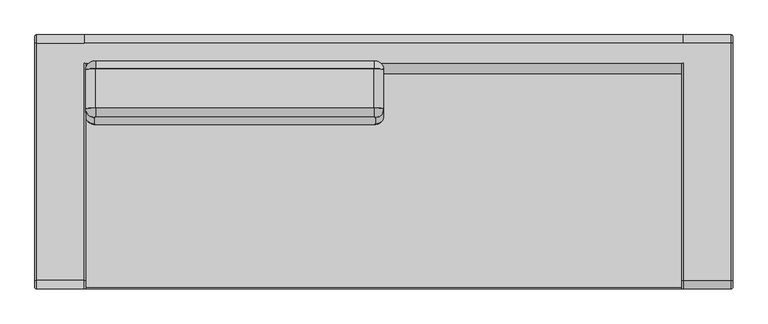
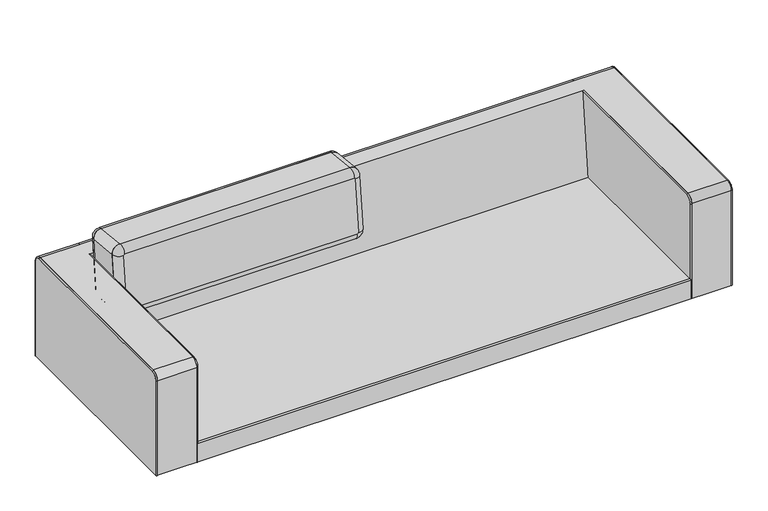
"""IFC4 building model written with IfcOpenShell, lengths in millimetres: furniture geometry, Sofa_Bensen_Neo_NEO300IT : Sofa_Bensen_Neo_NEO300IT."""

import ifcopenshell
import ifcopenshell.guid

model = None  # the IFC model being written
_history = None  # IfcOwnerHistory: only IFC2X3 demands one
_inside = {}  # id of a spatial element -> (the spatial element, [elements in it])
_under = {}  # id of a project, library or spatial element -> (it, [spatial elements below it])
_declared = {}  # id of a project -> (the project, [libraries it declares])
_typed = {}  # id of a type object -> (the type object, [elements of that type])
_made_of = {}  # id of a material, layer set ... -> (it, [elements and type objects made of it])


def new_model(schema):
    """Start an empty IFC model of exactly this schema.

    Asked for "IFC4X3", IfcOpenShell would pick the latest addendum, in which some entities
    have other attributes; the version numbers below select the first issue.
    IFC2X3 requires an IfcOwnerHistory on every rooted entity: one is made here for all.
    """
    global model, _history
    if schema == "IFC4X3":
        model = ifcopenshell.file(schema_version=(4, 3, 0, 0))
    else:
        model = ifcopenshell.file(schema=schema)
    _inside.clear()
    _under.clear()
    _declared.clear()
    _typed.clear()
    _made_of.clear()
    _history = None
    if model.schema == "IFC2X3":
        org = make("IfcOrganization", Name="unknown")
        user = make(
            "IfcPersonAndOrganization",
            ThePerson=make("IfcPerson", FamilyName="unknown"),
            TheOrganization=org,
        )
        app = make(
            "IfcApplication",
            ApplicationDeveloper=org,
            Version="unknown",
            ApplicationFullName="unknown",
            ApplicationIdentifier="unknown",
        )
        _history = make(
            "IfcOwnerHistory",
            OwningUser=user,
            OwningApplication=app,
            ChangeAction="ADDED",
            CreationDate=0,
        )
    return model


def make(cls, **values):
    """One entity of the class cls with the attributes given. An attribute that is None is left unset."""
    return model.create_entity(
        cls, **{name: value for name, value in values.items() if value is not None}
    )


def rooted(cls, **values):
    """An entity with a GlobalId (a new one), such as an element, a storey or a relation."""
    return make(cls, GlobalId=ifcopenshell.guid.new(), OwnerHistory=_history, **values)


def si_unit(unit_type, name, prefix=None):
    """IfcSIUnit, for example si_unit("LENGTHUNIT", "METRE", prefix="MILLI")."""
    return make("IfcSIUnit", UnitType=unit_type, Prefix=prefix, Name=name)


def assignment(units):
    """IfcUnitAssignment: the units of a project."""
    return None if units is None else make("IfcUnitAssignment", Units=units)


def point(xyz):
    """IfcCartesianPoint."""
    return None if xyz is None else make("IfcCartesianPoint", Coordinates=xyz)


def direction(xyz):
    """IfcDirection."""
    return None if xyz is None else make("IfcDirection", DirectionRatios=xyz)


def frame(location, z_axis=None, x_axis=None):
    """IfcAxis2Placement3D, a coordinate frame: its origin and axes. An axis left out is left unset."""
    return make(
        "IfcAxis2Placement3D",
        Location=point(location),
        Axis=direction(z_axis),
        RefDirection=direction(x_axis),
    )


def frame_2d(location, x_axis=None):
    """IfcAxis2Placement2D, a coordinate frame in the plane: its origin and x axis."""
    return make(
        "IfcAxis2Placement2D", Location=point(location), RefDirection=direction(x_axis)
    )


def origin():
    """The frame at (0, 0, 0) with its axes left unset."""
    return frame((0.0, 0.0, 0.0))


def place(relative_to, where):
    """IfcLocalPlacement: puts the frame where relative to a parent placement (None: the world)."""
    return make(
        "IfcLocalPlacement", PlacementRelTo=relative_to, RelativePlacement=where
    )


def context(
    kind, dimensions, precision=None, world=None, true_north=None, identifier=None
):
    """IfcGeometricRepresentationContext, for example the 3D "Model" context."""
    return make(
        "IfcGeometricRepresentationContext",
        ContextIdentifier=identifier,
        ContextType=kind,
        CoordinateSpaceDimension=dimensions,
        Precision=precision,
        WorldCoordinateSystem=world,
        TrueNorth=true_north,
    )


def project(units=None, contexts=None):
    """IfcProject with its units and contexts."""
    return rooted(
        "IfcProject",
        Name="project",
        RepresentationContexts=contexts,
        UnitsInContext=assignment(units),
    )


def spatial(cls, under=None, at=None, **own):
    """A site, building, storey or space (cls), placed at a placement, below another one or the project."""
    s = rooted(cls, ObjectPlacement=at, **own)
    if under is not None:
        _under.setdefault(under.id(), (under, []))[1].append(s)
    return s


def polyline(points):
    """IfcPolyline through the points."""
    return make("IfcPolyline", Points=[point(p) for p in points])


def circle_curve(where, radius):
    """IfcCircle in the frame where."""
    return make("IfcCircle", Position=where, Radius=radius)


def ellipse_curve(where, semi_axis1, semi_axis2):
    """IfcEllipse in the frame where."""
    return make(
        "IfcEllipse", Position=where, SemiAxis1=semi_axis1, SemiAxis2=semi_axis2
    )


def trimmed(basis, trim1, trim2, sense, master):
    """IfcTrimmedCurve: the piece of a basis curve between two trims."""
    return make(
        "IfcTrimmedCurve",
        BasisCurve=basis,
        Trim1=trim1,
        Trim2=trim2,
        SenseAgreement=sense,
        MasterRepresentation=master,
    )


def segment(curve, same_sense, transition):
    """IfcCompositeCurveSegment."""
    return make(
        "IfcCompositeCurveSegment",
        Transition=transition,
        SameSense=same_sense,
        ParentCurve=curve,
    )


def composite_curve(segments, self_intersect=None):
    """IfcCompositeCurve: segments joined end to end."""
    return make("IfcCompositeCurve", Segments=segments, SelfIntersect=self_intersect)


def outline(outer, holes=None, kind="AREA"):
    """IfcArbitraryClosedProfileDef: a profile drawn as a closed curve; with holes, ...WithVoids."""
    if holes is None:
        return make("IfcArbitraryClosedProfileDef", ProfileType=kind, OuterCurve=outer)
    return make(
        "IfcArbitraryProfileDefWithVoids",
        ProfileType=kind,
        OuterCurve=outer,
        InnerCurves=holes,
    )


def extrude(swept, where, along, depth):
    """IfcExtrudedAreaSolid: the profile swept, set in the frame where, extruded along a direction by depth."""
    return make(
        "IfcExtrudedAreaSolid",
        SweptArea=swept,
        Position=where,
        ExtrudedDirection=direction(along),
        Depth=depth,
    )


def shape(context_of_items, identifier, shape_type, items):
    """IfcShapeRepresentation: the items that make up one representation, for example the "Body"."""
    return make(
        "IfcShapeRepresentation",
        ContextOfItems=context_of_items,
        RepresentationIdentifier=identifier,
        RepresentationType=shape_type,
        Items=items,
    )


def source(mapping_origin, context_of_items, identifier, shape_type, items):
    """IfcRepresentationMap: a shape defined once, which mapped items show again and again."""
    return make(
        "IfcRepresentationMap",
        MappingOrigin=mapping_origin,
        MappedRepresentation=shape(context_of_items, identifier, shape_type, items),
    )


def transform(
    local_origin,
    x_axis=None,
    y_axis=None,
    z_axis=None,
    scale=None,
    scale2=None,
    scale3=None,
    uniform=True,
):
    """IfcCartesianTransformationOperator3D, or its non-uniform kind. x_axis, y_axis, z_axis: its Axis1, 2, 3."""
    if uniform:
        return make(
            "IfcCartesianTransformationOperator3D",
            Axis1=direction(x_axis),
            Axis2=direction(y_axis),
            LocalOrigin=point(local_origin),
            Scale=scale,
            Axis3=direction(z_axis),
        )
    return make(
        "IfcCartesianTransformationOperator3DnonUniform",
        Axis1=direction(x_axis),
        Axis2=direction(y_axis),
        LocalOrigin=point(local_origin),
        Scale=scale,
        Axis3=direction(z_axis),
        Scale2=scale2,
        Scale3=scale3,
    )


def mapped(mapping_source, mapping_target):
    """IfcMappedItem: shows the shape of a source again, moved by a transform."""
    return make(
        "IfcMappedItem", MappingSource=mapping_source, MappingTarget=mapping_target
    )


def made_of(thing, what):
    """Note that an element or type object is made of a material, layer set ...; save() writes the relation."""
    if what is not None:
        _made_of.setdefault(what.id(), (what, []))[1].append(thing)
    return thing


def element(
    cls,
    number,
    at=None,
    inside=None,
    cuts=None,
    type_object=None,
    material=None,
    context=None,
    identifier="Body",
    shape_type=None,
    held_by="IfcProductDefinitionShape",
    body=None,
    shapes=None,
    **own,
):
    """One element of the class cls, such as IfcWall. Its Tag is "e" and its number.

    at: its placement. inside: the storey or other place that contains it. cuts: it is an
    opening in that element (IfcRelVoidsElement). A single representation is given by context,
    identifier, shape_type and body (its items); several are given by shapes. held_by: the class
    of the entity that holds the representations. save() writes the other relations.
    """
    e = rooted(cls, Tag="e%d" % number, ObjectPlacement=at, **own)
    if body is not None:
        shapes = [shape(context, identifier, shape_type, body)]
    if shapes is not None:
        e.Representation = make(held_by, Representations=shapes)
    if inside is not None:
        _inside.setdefault(inside.id(), (inside, []))[1].append(e)
    if cuts is not None:
        rooted(
            "IfcRelVoidsElement", RelatingBuildingElement=cuts, RelatedOpeningElement=e
        )
    if type_object is not None:
        _typed.setdefault(type_object.id(), (type_object, []))[1].append(e)
    return made_of(e, material)


def aggregate(whole, parts):
    """IfcRelAggregates: a whole, such as a stair, and the parts it consists of."""
    return rooted("IfcRelAggregates", RelatingObject=whole, RelatedObjects=parts)


def save(model, path):
    """Write the relations noted so far, then the file.

    IfcRelAggregates (storeys below a building ...), IfcRelContainedInSpatialStructure (elements
    in a storey), IfcRelDefinesByType, IfcRelAssociatesMaterial and IfcRelDeclares: one each for
    every whole, place, type object, material and project.
    """
    for whole, parts in _under.values():
        aggregate(whole, parts)
    for where, things in _inside.values():
        rooted(
            "IfcRelContainedInSpatialStructure",
            RelatedElements=things,
            RelatingStructure=where,
        )
    for kind, things in _typed.values():
        rooted("IfcRelDefinesByType", RelatedObjects=things, RelatingType=kind)
    for what, things in _made_of.values():
        rooted("IfcRelAssociatesMaterial", RelatedObjects=things, RelatingMaterial=what)
    for by, libraries in _declared.values():
        rooted("IfcRelDeclares", RelatingContext=by, RelatedDefinitions=libraries)
    model.write(path)


def plane_surface(at):
    """IfcPlane: the flat surface through the origin of the frame at, square to its z axis."""
    return make("IfcPlane", Position=at)


def cylinder_surface(at, radius):
    """IfcCylindricalSurface: all points at the distance radius from the z axis of the frame at."""
    return make("IfcCylindricalSurface", Position=at, Radius=radius)


def revolved_surface(curve, axis_point, axis_direction):
    """IfcSurfaceOfRevolution: the curve turned about the line through axis_point along axis_direction."""
    return make(
        "IfcSurfaceOfRevolution",
        SweptCurve=make("IfcArbitraryOpenProfileDef", ProfileType="CURVE", Curve=curve),
        AxisPosition=make("IfcAxis1Placement", Location=point(axis_point), Axis=direction(axis_direction)),
    )


def advanced_brep(points, edges, surfaces, faces):
    """IfcAdvancedBrep: a solid bounded by faces that lie on surfaces and meet in shared edges.

    An edge is (start, end): straight between two places in points (the first is 0);
    or (start, end, curve); or (start, end, curve, False) where it runs against its curve.
    A face is (place in surfaces, loops), or (place, loops, False) where it looks against
    its surface's normal. A loop lists edges by number (the first is 1), with a minus sign
    where the edge is run from its end to its start. The first loop is the outer one.
    """
    corners = [point(p) for p in points]
    vertices = [make("IfcVertexPoint", VertexGeometry=c) for c in corners]
    made = []
    for start, end, *more in edges:
        made.append(
            make(
                "IfcEdgeCurve",
                EdgeStart=vertices[start],
                EdgeEnd=vertices[end],
                EdgeGeometry=more[0] if more else make("IfcPolyline", Points=[corners[start], corners[end]]),
                SameSense=more[1] if len(more) > 1 else True,
            )
        )
    hull = []
    for where, loops, *sense in faces:
        bounds = []
        for j, loop in enumerate(loops):
            ring = [make("IfcOrientedEdge", EdgeElement=made[abs(k) - 1], Orientation=k > 0) for k in loop]
            bounds.append(
                make(
                    "IfcFaceOuterBound" if j == 0 else "IfcFaceBound",
                    Bound=make("IfcEdgeLoop", EdgeList=ring),
                    Orientation=True,
                )
            )
        hull.append(make("IfcAdvancedFace", Bounds=bounds, FaceSurface=surfaces[where], SameSense=sense[0] if sense else True))
    return make("IfcAdvancedBrep", Outer=make("IfcClosedShell", CfsFaces=hull))


def furniture_b4d80ae5(model_context):
    return source(origin(), model_context, "Body", "SolidModel", [
        advanced_brep(
        [(-1020.0000001, 330.2036921, 743.2087665), (-1055.0000001, 326.5451959, 708.4005002), (-1055.0000001, 302.5036494, 479.6604642), (-1020.0000001, 298.8451531, 444.8521979), (-35.0000001, 298.8451531, 444.8521979), (-1e-07, 302.5036494, 479.6604642), (-1e-07, 326.5451959, 708.4005002), (-35.0000001, 330.2036921, 743.2087665), (-1025.0000001, 356.3808528, 705.2646463), (-1020.0000001, 356.9034951, 710.2372557), (-35.0000001, 356.9034951, 710.2372557), (-30.0000001, 356.3808528, 705.2646463), (-30.0000001, 332.3393062, 476.5246103), (-35.0000001, 331.8166639, 471.5520008), (-1020.0000001, 331.8166639, 471.5520008), (-1025.0000001, 332.3393062, 476.5246103)],
        [
            (0, 1, circle_curve(frame((-1020.0000001, 326.5451959, 708.4005002), z_axis=(0.0, -0.9945218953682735, 0.10452846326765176), x_axis=(-1.0, 0.0, 0.0)), 35.0)),
            (1, 2),
            (2, 3, circle_curve(frame((-1020.0000001, 302.5036494, 479.6604642), z_axis=(0.0, -0.9945218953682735, 0.10452846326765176), x_axis=(0.0, -0.10452846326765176, -0.9945218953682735)), 35.0)),
            (3, 4),
            (4, 5, circle_curve(frame((-35.0000001, 302.5036494, 479.6604642), z_axis=(0.0, -0.9945218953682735, 0.10452846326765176), x_axis=(1.0, 0.0, 0.0)), 35.0)),
            (5, 6),
            (6, 7, circle_curve(frame((-35.0000001, 326.5451959, 708.4005002), z_axis=(0.0, -0.9945218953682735, 0.10452846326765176), x_axis=(0.0, 0.10452846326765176, 0.9945218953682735)), 35.0)),
            (7, 0),
            (8, 9, circle_curve(frame((-1020.0000001, 356.3808528, 705.2646463), z_axis=(0.0, 0.9945218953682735, -0.10452846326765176), x_axis=(-1.0, 0.0, 0.0)), 5.0)),
            (9, 10),
            (10, 11, circle_curve(frame((-35.0000001, 356.3808528, 705.2646463), z_axis=(0.0, 0.9945218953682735, -0.10452846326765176), x_axis=(0.0, 0.10452846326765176, 0.9945218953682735)), 5.0)),
            (11, 12),
            (12, 13, circle_curve(frame((-35.0000001, 332.3393062, 476.5246103), z_axis=(0.0, 0.9945218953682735, -0.10452846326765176), x_axis=(1.0, 0.0, 0.0)), 5.0)),
            (13, 14),
            (14, 15, circle_curve(frame((-1020.0000001, 332.3393062, 476.5246103), z_axis=(0.0, 0.9945218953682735, -0.10452846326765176), x_axis=(0.0, -0.10452846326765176, -0.9945218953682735)), 5.0)),
            (15, 8),
            (8, 1, circle_curve(frame((-1025.0000001, 326.5451959, 708.4005002), z_axis=(0.0, 0.10452846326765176, 0.9945218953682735), x_axis=(-1.0, 0.0, 0.0)), 30.0)),
            (0, 9, circle_curve(frame((-1020.0000001, 327.0678382, 713.3731096), z_axis=(-1.0, 0.0, 0.0), x_axis=(0.0, 0.10452846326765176, 0.9945218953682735)), 30.0)),
            (7, 10, circle_curve(frame((-35.0000001, 327.0678382, 713.3731096), z_axis=(-1.0, 0.0, 0.0), x_axis=(0.0, 0.10452846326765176, 0.9945218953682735)), 30.0)),
            (6, 11, circle_curve(frame((-30.0000001, 326.5451959, 708.4005002), z_axis=(0.0, 0.10452846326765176, 0.9945218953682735), x_axis=(1.0, 0.0, 0.0)), 30.0)),
            (5, 12, circle_curve(frame((-30.0000001, 302.5036494, 479.6604642), z_axis=(0.0, 0.10452846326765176, 0.9945218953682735), x_axis=(1.0, 0.0, 0.0)), 30.0)),
            (4, 13, circle_curve(frame((-35.0000001, 301.981007, 474.6878547), z_axis=(1.0, 0.0, 0.0), x_axis=(0.0, -0.10452846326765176, -0.9945218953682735)), 30.0)),
            (3, 14, circle_curve(frame((-1020.0000001, 301.981007, 474.6878547), z_axis=(1.0, 0.0, 0.0), x_axis=(0.0, -0.10452846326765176, -0.9945218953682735)), 30.0)),
            (2, 15, circle_curve(frame((-1025.0000001, 302.5036494, 479.6604642), z_axis=(0.0, -0.10452846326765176, -0.9945218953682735), x_axis=(-1.0, 0.0, 0.0)), 30.0)),
        ],
        [
            plane_surface(frame((-1020.0000001, 303.0262917, 484.6330737), z_axis=(0.0, -0.9945218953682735, 0.10452846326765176), x_axis=(-1.0, 0.0, 0.0))),
            plane_surface(frame((-1020.0000001, 332.8619485, 481.4972198), z_axis=(0.0, 0.9945218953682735, -0.10452846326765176), x_axis=(1.0, 0.0, 0.0))),
            revolved_surface(trimmed(ellipse_curve(frame((-1025.0000001, 326.5451959, 708.4005002), z_axis=(0.0, -0.10452846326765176, -0.9945218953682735), x_axis=(-1.0, 0.0, 0.0)), 30.0, 30.0), [point((-1055.0000001, 326.5451959, 708.4005002))], [point((-1025.0000001, 356.3808528, 705.2646463))], True, "CARTESIAN"), (-1020.0000001, 326.5451959, 708.4005002), (0.0, 0.9945218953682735, -0.10452846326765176)),
            cylinder_surface(frame((-1020.0000001, 327.0678382, 713.3731096), z_axis=(-1.0, 0.0, 0.0), x_axis=(0.0, 0.10452846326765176, 0.9945218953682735)), 30.0),
            revolved_surface(trimmed(ellipse_curve(frame((-35.0000001, 327.0678382, 713.3731096), z_axis=(-1.0, 0.0, 0.0), x_axis=(0.0, 0.10452846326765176, 0.9945218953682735)), 30.0, 30.0), [point((-35.0000001, 330.2036921, 743.2087665))], [point((-35.0000001, 356.9034951, 710.2372557))], True, "CARTESIAN"), (-35.0000001, 326.5451959, 708.4005002), (0.0, 0.9945218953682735, -0.10452846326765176)),
            cylinder_surface(frame((-30.0000001, 326.5451959, 708.4005002), z_axis=(0.0, 0.10452846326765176, 0.9945218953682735), x_axis=(1.0, 0.0, 0.0)), 30.0),
            revolved_surface(trimmed(ellipse_curve(frame((-30.0000001, 302.5036494, 479.6604642), z_axis=(0.0, 0.10452846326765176, 0.9945218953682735), x_axis=(1.0, 0.0, 0.0)), 30.0, 30.0), [point((-1e-07, 302.5036494, 479.6604642))], [point((-30.0000001, 332.3393062, 476.5246103))], True, "CARTESIAN"), (-35.0000001, 302.5036494, 479.6604642), (0.0, 0.9945218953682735, -0.10452846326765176)),
            cylinder_surface(frame((-35.0000001, 301.981007, 474.6878547), z_axis=(1.0, 0.0, 0.0), x_axis=(0.0, -0.10452846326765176, -0.9945218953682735)), 30.0),
            revolved_surface(trimmed(ellipse_curve(frame((-1020.0000001, 301.981007, 474.6878547), z_axis=(1.0, 0.0, 0.0), x_axis=(0.0, -0.10452846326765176, -0.9945218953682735)), 30.0, 30.0), [point((-1020.0000001, 298.8451531, 444.8521979))], [point((-1020.0000001, 331.8166639, 471.5520008))], True, "CARTESIAN"), (-1020.0000001, 302.5036494, 479.6604642), (0.0, 0.9945218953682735, -0.10452846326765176)),
            cylinder_surface(frame((-1025.0000001, 302.5036494, 479.6604642), z_axis=(0.0, -0.10452846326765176, -0.9945218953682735), x_axis=(-1.0, 0.0, 0.0)), 30.0),
        ],
        [
            (0, [[1, 2, 3, 4, 5, 6, 7, 8]]),
            (1, [[9, 10, 11, 12, 13, 14, 15, 16]]),
            (2, [[17, -1, 18, -9]]),
            (3, [[-18, -8, 19, -10]]),
            (4, [[-19, -7, 20, -11]]),
            (5, [[-20, -6, 21, -12]]),
            (6, [[-21, -5, 22, -13]]),
            (7, [[-22, -4, 23, -14]]),
            (8, [[-23, -3, 24, -15]]),
            (9, [[-17, -16, -24, -2]]),
        ],
    ),
        advanced_brep(
        [(-1020.0000001, 190.9706268, 757.8427514), (-1055.0000001, 187.3121306, 723.034485), (-1025.0000001, 157.4764737, 726.1703389), (-1020.0000001, 157.999116, 731.1429484), (-35.0000001, 157.999116, 731.1429484), (-35.0000001, 190.9706268, 757.8427514), (-30.0000001, 157.4764737, 726.1703389), (-1e-07, 187.3121306, 723.034485), (-30.0000001, 133.4349271, 497.430303), (-1e-07, 163.270584, 494.2944491), (-35.0000001, 132.9122848, 492.4576935), (-35.0000001, 159.6120878, 459.4861827), (-1020.0000001, 132.9122848, 492.4576935), (-1020.0000001, 159.6120878, 459.4861827), (-1025.0000001, 133.4349271, 497.430303), (-1055.0000001, 163.270584, 494.2944491)],
        [
            (0, 1, circle_curve(frame((-1020.0000001, 187.3121306, 723.034485), z_axis=(0.0, -0.9945218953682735, 0.10452846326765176), x_axis=(-1.0, 0.0, 0.0)), 35.0)),
            (1, 2, circle_curve(frame((-1025.0000001, 187.3121306, 723.034485), z_axis=(0.0, 0.10452846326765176, 0.9945218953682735), x_axis=(-1.0, 0.0, 0.0)), 30.0)),
            (2, 3, circle_curve(frame((-1020.0000001, 157.4764737, 726.1703389), z_axis=(0.0, 0.9945218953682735, -0.10452846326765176), x_axis=(-1.0, 0.0, 0.0)), 5.0)),
            (3, 0, circle_curve(frame((-1020.0000001, 187.8347729, 728.0070945), z_axis=(-1.0, 0.0, 0.0), x_axis=(0.0, 0.10452846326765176, 0.9945218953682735)), 30.0)),
            (3, 4),
            (4, 5, circle_curve(frame((-35.0000001, 187.8347729, 728.0070945), z_axis=(-1.0, 0.0, 0.0), x_axis=(0.0, 0.10452846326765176, 0.9945218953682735)), 30.0)),
            (5, 0),
            (4, 6, circle_curve(frame((-35.0000001, 157.4764737, 726.1703389), z_axis=(0.0, 0.9945218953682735, -0.10452846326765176), x_axis=(0.0, 0.10452846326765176, 0.9945218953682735)), 5.0)),
            (6, 7, circle_curve(frame((-30.0000001, 187.3121306, 723.034485), z_axis=(0.0, 0.10452846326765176, 0.9945218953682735), x_axis=(1.0, 0.0, 0.0)), 30.0)),
            (7, 5, circle_curve(frame((-35.0000001, 187.3121306, 723.034485), z_axis=(0.0, -0.9945218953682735, 0.10452846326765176), x_axis=(0.0, 0.10452846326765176, 0.9945218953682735)), 35.0)),
            (6, 8),
            (8, 9, circle_curve(frame((-30.0000001, 163.270584, 494.2944491), z_axis=(0.0, 0.10452846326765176, 0.9945218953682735), x_axis=(1.0, 0.0, 0.0)), 30.0)),
            (9, 7),
            (8, 10, circle_curve(frame((-35.0000001, 133.4349271, 497.430303), z_axis=(0.0, 0.9945218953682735, -0.10452846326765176), x_axis=(1.0, 0.0, 0.0)), 5.0)),
            (10, 11, circle_curve(frame((-35.0000001, 162.7479417, 489.3218396), z_axis=(1.0, 0.0, 0.0), x_axis=(0.0, -0.10452846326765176, -0.9945218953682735)), 30.0)),
            (11, 9, circle_curve(frame((-35.0000001, 163.270584, 494.2944491), z_axis=(0.0, -0.9945218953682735, 0.10452846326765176), x_axis=(1.0, 0.0, 0.0)), 35.0)),
            (10, 12),
            (12, 13, circle_curve(frame((-1020.0000001, 162.7479417, 489.3218396), z_axis=(1.0, 0.0, 0.0), x_axis=(0.0, -0.10452846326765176, -0.9945218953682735)), 30.0)),
            (13, 11),
            (12, 14, circle_curve(frame((-1020.0000001, 133.4349271, 497.430303), z_axis=(0.0, 0.9945218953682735, -0.10452846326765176), x_axis=(0.0, -0.10452846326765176, -0.9945218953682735)), 5.0)),
            (14, 15, circle_curve(frame((-1025.0000001, 163.270584, 494.2944491), z_axis=(0.0, -0.10452846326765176, -0.9945218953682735), x_axis=(-1.0, 0.0, 0.0)), 30.0)),
            (15, 13, circle_curve(frame((-1020.0000001, 163.270584, 494.2944491), z_axis=(0.0, -0.9945218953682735, 0.10452846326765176), x_axis=(0.0, -0.10452846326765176, -0.9945218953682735)), 35.0)),
            (1, 15),
            (14, 2),
        ],
        [
            revolved_surface(trimmed(ellipse_curve(frame((-1025.0000001, 187.3121306, 723.034485), z_axis=(0.0, -0.10452846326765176, -0.9945218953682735), x_axis=(-1.0, 0.0, 0.0)), 30.0, 30.0), [point((-1025.0000001, 157.4764737, 726.1703389))], [point((-1055.0000001, 187.3121306, 723.034485))], True, "CARTESIAN"), (-1020.0000001, 356.3808528, 705.2646463), (0.0, 0.9945218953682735, -0.10452846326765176)),
            cylinder_surface(frame((-1020.0000001, 187.8347729, 728.0070945), z_axis=(-1.0, 0.0, 0.0), x_axis=(0.0, 0.10452846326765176, 0.9945218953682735)), 30.0),
            revolved_surface(trimmed(ellipse_curve(frame((-35.0000001, 187.8347729, 728.0070945), z_axis=(-1.0, 0.0, 0.0), x_axis=(0.0, 0.10452846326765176, 0.9945218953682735)), 30.0, 30.0), [point((-35.0000001, 157.999116, 731.1429484))], [point((-35.0000001, 190.9706268, 757.8427514))], True, "CARTESIAN"), (-35.0000001, 356.3808528, 705.2646463), (0.0, 0.9945218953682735, -0.10452846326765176)),
            cylinder_surface(frame((-30.0000001, 187.3121306, 723.034485), z_axis=(0.0, 0.10452846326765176, 0.9945218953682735), x_axis=(1.0, 0.0, 0.0)), 30.0),
            revolved_surface(trimmed(ellipse_curve(frame((-30.0000001, 163.270584, 494.2944491), z_axis=(0.0, 0.10452846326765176, 0.9945218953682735), x_axis=(1.0, 0.0, 0.0)), 30.0, 30.0), [point((-30.0000001, 133.4349271, 497.430303))], [point((-1e-07, 163.270584, 494.2944491))], True, "CARTESIAN"), (-35.0000001, 332.3393062, 476.5246103), (0.0, 0.9945218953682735, -0.10452846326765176)),
            cylinder_surface(frame((-35.0000001, 162.7479417, 489.3218396), z_axis=(1.0, 0.0, 0.0), x_axis=(0.0, -0.10452846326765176, -0.9945218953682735)), 30.0),
            revolved_surface(trimmed(ellipse_curve(frame((-1020.0000001, 162.7479417, 489.3218396), z_axis=(1.0, 0.0, 0.0), x_axis=(0.0, -0.10452846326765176, -0.9945218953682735)), 30.0, 30.0), [point((-1020.0000001, 132.9122848, 492.4576935))], [point((-1020.0000001, 159.6120878, 459.4861827))], True, "CARTESIAN"), (-1020.0000001, 332.3393062, 476.5246103), (0.0, 0.9945218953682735, -0.10452846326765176)),
            cylinder_surface(frame((-1025.0000001, 163.270584, 494.2944491), z_axis=(0.0, -0.10452846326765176, -0.9945218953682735), x_axis=(-1.0, 0.0, 0.0)), 30.0),
            plane_surface(frame((-1055.0000001, 163.270584, 494.2944491), z_axis=(0.0, 0.9945218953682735, -0.10452846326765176), x_axis=(0.0, 0.10452846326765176, 0.9945218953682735))),
            plane_surface(frame((-1020.0000001, 133.9575695, 502.4029125), z_axis=(0.0, -0.9945218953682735, 0.10452846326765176), x_axis=(-1.0, 0.0, 0.0))),
        ],
        [
            (0, [[1, 2, 3, 4]]),
            (1, [[-4, 5, 6, 7]]),
            (2, [[-6, 8, 9, 10]]),
            (3, [[-9, 11, 12, 13]]),
            (4, [[-12, 14, 15, 16]]),
            (5, [[-15, 17, 18, 19]]),
            (6, [[-18, 20, 21, 22]]),
            (7, [[-2, 23, -21, 24]]),
            (8, [[-1, -7, -10, -13, -16, -19, -22, -23]]),
            (9, [[-3, -24, -20, -17, -14, -11, -8, -5]]),
        ],
    ),
        extrude(outline(composite_curve([segment(polyline([(-35.0, -35.0000001), (-35.0, 195.0)]), True, "CONTINUOUS"), segment(trimmed(circle_curve(frame_2d((0.0, 195.0)), 35.0), [point((-35.0, 195.0))], [point((0.0, 230.0))], False, "CARTESIAN"), True, "CONTINUOUS"), segment(polyline([(0.0, 230.0), (985.0, 230.0)]), True, "CONTINUOUS"), segment(trimmed(circle_curve(frame_2d((985.0, 195.0)), 35.0), [point((985.0, 230.0))], [point((1020.0, 195.0))], False, "CARTESIAN"), True, "CONTINUOUS"), segment(polyline([(1020.0, 195.0), (1020.0, -35.0000001)]), True, "CONTINUOUS"), segment(trimmed(circle_curve(frame_2d((985.0, -35.0000001)), 35.0), [point((1020.0, -35.0000001))], [point((985.0, -70.0))], False, "CARTESIAN"), True, "CONTINUOUS"), segment(polyline([(985.0, -70.0), (0.0, -70.0)]), True, "CONTINUOUS"), segment(trimmed(circle_curve(frame_2d((0.0, -35.0000001)), 35.0), [point((0.0, -70.0))], [point((-35.0, -35.0000001))], False, "CARTESIAN"), True, "CONTINUOUS")], self_intersect=False)), frame((-1020.0000001, 306.1621456, 514.4687306), z_axis=(0.0, -0.9945218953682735, 0.10452846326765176), x_axis=(1.0, 0.0, 0.0)), (0.0, 0.0, 1.0), 140.0),
        advanced_brep(
        [(1230.0, -449.9987249, 170.0), (1230.0, -449.9987249, 599.5427565), (1230.0, -419.9987249, 629.5427565), (1230.0, 419.998725, 629.5427565), (1230.0, 449.998725, 599.5427565), (1230.0, 449.998725, 170.0), (1235.0, -444.9987249, 170.0), (1235.0, 444.998725, 170.0), (1235.0, 444.998725, 599.5427565), (1235.0, 419.998725, 624.5427565), (1235.0, -419.9987249, 624.5427565), (1235.0, -444.9987249, 599.5427565)],
        [
            (0, 1),
            (1, 2, circle_curve(frame((1230.0, -419.9987249, 599.5427565), z_axis=(-1.0, 0.0, 0.0), x_axis=(0.0, 0.0, 1.0)), 30.0)),
            (2, 3),
            (3, 4, circle_curve(frame((1230.0, 419.998725, 599.5427565), z_axis=(-1.0, 0.0, 0.0), x_axis=(0.0, 1.0, 0.0)), 30.0)),
            (4, 5),
            (5, 0),
            (6, 7),
            (7, 8),
            (8, 9, circle_curve(frame((1235.0, 419.998725, 599.5427565), z_axis=(1.0, 0.0, 0.0), x_axis=(0.0, 1.0, 0.0)), 25.0)),
            (9, 10),
            (10, 11, circle_curve(frame((1235.0, -419.9987249, 599.5427565), z_axis=(1.0, 0.0, 0.0), x_axis=(0.0, 0.0, 1.0)), 25.0)),
            (11, 6),
            (5, 7, circle_curve(frame((1230.0, 444.998725, 170.0), z_axis=(0.0, 0.0, -1.0), x_axis=(-1.0, 0.0, 0.0)), 5.0)),
            (6, 0, circle_curve(frame((1230.0, -444.9987249, 170.0), z_axis=(0.0, 0.0, -1.0), x_axis=(-1.0, 0.0, 0.0)), 5.0)),
            (9, 3, circle_curve(frame((1230.0, 419.998725, 624.5427565), z_axis=(0.0, -1.0, 0.0), x_axis=(-1.0, 0.0, 0.0)), 5.0)),
            (2, 10, circle_curve(frame((1230.0, -419.9987249, 624.5427565), z_axis=(0.0, 1.0, 0.0), x_axis=(-1.0, 0.0, 0.0)), 5.0)),
            (1, 11, circle_curve(frame((1230.0, -444.9987249, 599.5427565), z_axis=(0.0, 0.0, 1.0), x_axis=(-1.0, 0.0, 0.0)), 5.0)),
            (4, 8, circle_curve(frame((1230.0, 444.998725, 599.5427565), z_axis=(0.0, 0.0, -1.0), x_axis=(-1.0, 0.0, 0.0)), 5.0)),
        ],
        [
            plane_surface(frame((1230.0, 444.998725, 599.5427565), z_axis=(-1.0, 0.0, 0.0), x_axis=(0.0, 0.0, -1.0))),
            plane_surface(frame((1235.0, 444.998725, 599.5427565), z_axis=(1.0, 0.0, 0.0), x_axis=(0.0, 0.0, 1.0))),
            plane_surface(frame((1230.0, 444.998725, 170.0), z_axis=(0.0, 0.0, -1.0), x_axis=(1.0, 0.0, 0.0))),
            cylinder_surface(frame((1230.0, 419.998725, 624.5427565), z_axis=(0.0, 1.0, 0.0), x_axis=(-1.0, 0.0, 0.0)), 5.0),
            revolved_surface(trimmed(ellipse_curve(frame((1230.0, -419.9987249, 624.5427565), z_axis=(0.0, 1.0, 0.0), x_axis=(-1.0, 0.0, 0.0)), 5.0, 5.0), [point((1230.0, -419.9987249, 629.5427565))], [point((1235.0, -419.9987249, 624.5427565))], True, "CARTESIAN"), (750.0, -419.9987249, 599.5427565), (1.0, 0.0, 0.0)),
            cylinder_surface(frame((1230.0, -444.9987249, 599.5427565), z_axis=(0.0, 0.0, 1.0), x_axis=(-1.0, 0.0, 0.0)), 5.0),
            cylinder_surface(frame((1230.0, 444.998725, 170.0), z_axis=(0.0, 0.0, -1.0), x_axis=(-1.0, 0.0, 0.0)), 5.0),
            revolved_surface(trimmed(ellipse_curve(frame((1230.0, 444.998725, 599.5427565), z_axis=(0.0, 0.0, -1.0), x_axis=(-1.0, 0.0, 0.0)), 5.0, 5.0), [point((1230.0, 449.998725, 599.5427565))], [point((1235.0, 444.998725, 599.5427565))], True, "CARTESIAN"), (750.0, 419.998725, 599.5427565), (1.0, 0.0, 0.0)),
        ],
        [
            (0, [[1, 2, 3, 4, 5, 6]]),
            (1, [[7, 8, 9, 10, 11, 12]]),
            (2, [[-6, 13, -7, 14]]),
            (3, [[15, -3, 16, -10]]),
            (4, [[-16, -2, 17, -11]]),
            (5, [[-17, -1, -14, -12]]),
            (6, [[-13, -5, 18, -8]]),
            (7, [[-15, -9, -18, -4]]),
        ],
    ),
        advanced_brep(
        [(1060.0, -444.9987249, 259.4004127), (1060.0, 349.998725, 259.4004127), (1060.0, 349.998725, 629.5427565), (1060.0, -419.9987249, 629.5427565), (1060.0, -449.9987249, 599.5427565), (1060.0, -449.9987249, 170.0), (1060.0, -444.9987249, 170.0), (1055.0000001, 349.998725, 624.5427565), (1055.0000001, 349.998725, 259.4004127), (1055.0000001, -444.9987249, 259.4004127), (1055.0000001, -444.9987249, 599.5427565), (1055.0000001, -419.9987249, 624.5427565), (1055.0, -444.9987249, 170.0)],
        [
            (0, 1),
            (1, 2),
            (2, 3),
            (3, 4, circle_curve(frame((1060.0, -419.9987249, 599.5427565), z_axis=(1.0, 0.0, 0.0), x_axis=(0.0, 0.0, 1.0)), 30.0)),
            (4, 5),
            (5, 6),
            (6, 0),
            (7, 8),
            (8, 9),
            (9, 10),
            (10, 11, circle_curve(frame((1055.0000001, -419.9987249, 599.5427565), z_axis=(-1.0, 0.0, 0.0), x_axis=(0.0, 0.0, 1.0)), 25.0)),
            (11, 7),
            (0, 9),
            (8, 1),
            (7, 2, circle_curve(frame((1060.0, 349.998725, 624.5427565), z_axis=(0.0, 1.0, 0.0), x_axis=(0.0, 0.0, -1.0)), 5.0)),
            (11, 3, circle_curve(frame((1060.0, -419.9987249, 624.5427565), z_axis=(0.0, 1.0, 0.0), x_axis=(0.0, 0.0, -1.0)), 5.0)),
            (10, 4, circle_curve(frame((1060.0, -444.9987249, 599.5427565), z_axis=(0.0, 0.0, 1.0), x_axis=(0.0, 1.0, 0.0)), 5.0)),
            (5, 12, circle_curve(frame((1060.0, -444.9987249, 170.0), z_axis=(0.0, 0.0, -1.0), x_axis=(0.0, 1.0, 0.0)), 5.0)),
            (12, 6),
            (12, 9),
        ],
        [
            plane_surface(frame((1060.0, -394.9987249, 599.5427565), z_axis=(1.0, 0.0, 0.0), x_axis=(0.0, 0.0, 1.0))),
            plane_surface(frame((1055.0000001, -394.9987249, 599.5427565), z_axis=(-1.0, 0.0, 0.0), x_axis=(0.0, 0.0, -1.0))),
            plane_surface(frame((1060.0, -444.9987249, 259.4004127), z_axis=(0.0, 0.0, -1.0), x_axis=(-1.0, 0.0, 0.0))),
            plane_surface(frame((1060.0, 349.998725, 259.4004127), z_axis=(0.0, 1.0, 0.0), x_axis=(-1.0, 0.0, 0.0))),
            cylinder_surface(frame((1060.0, 349.998725, 624.5427565), z_axis=(0.0, 1.0, 0.0), x_axis=(0.0, 0.0, -1.0)), 5.0),
            revolved_surface(trimmed(ellipse_curve(frame((1060.0, -419.9987249, 624.5427565), z_axis=(0.0, 1.0, 0.0), x_axis=(0.0, 0.0, -1.0)), 5.0, 5.0), [point((1055.0, -419.9987249, 624.5427565))], [point((1060.0, -419.9987249, 629.5427565))], True, "CARTESIAN"), (750.0, -419.9987249, 599.5427565), (1.0, 0.0, 0.0)),
            plane_surface(frame((750.0, -449.9987249, 170.0), z_axis=(0.0, 0.0, -1.0), x_axis=(1.0, 0.0, 0.0))),
            plane_surface(frame((1060.0, -444.9987249, 599.5427565), z_axis=(0.0, 1.0, 0.0), x_axis=(0.0, 0.0, -1.0))),
            cylinder_surface(frame((1060.0, -444.9987249, 599.5427565), z_axis=(0.0, 0.0, 1.0), x_axis=(0.0, 1.0, 0.0)), 5.0),
        ],
        [
            (0, [[1, 2, 3, 4, 5, 6, 7]]),
            (1, [[8, 9, 10, 11, 12]]),
            (2, [[-1, 13, -9, 14]]),
            (3, [[-2, -14, -8, 15]]),
            (4, [[-15, -12, 16, -3]]),
            (5, [[-16, -11, 17, -4]]),
            (6, [[-6, 18, 19]]),
            (7, [[-19, 20, -13, -7]]),
            (8, [[-5, -17, -10, -20, -18]]),
        ],
    ),
        advanced_brep(
        [(-1060.0, 349.998725, 259.4004127), (-1060.0, -444.9987249, 259.4004127), (-1060.0, -444.9987249, 170.0), (-1060.0, -449.9987249, 170.0), (-1060.0, -449.9987249, 599.5427565), (-1060.0, -419.9987249, 629.5427565), (-1060.0, 349.998725, 629.5427565), (-1055.0000001, -444.9987249, 259.4004127), (-1055.0000001, 349.998725, 259.4004127), (-1055.0000001, 349.998725, 624.5427565), (-1055.0000001, -419.9987249, 624.5427565), (-1055.0000001, -444.9987249, 599.5427565), (-1055.0, -444.9987249, 170.0)],
        [
            (0, 1),
            (1, 2),
            (2, 3),
            (3, 4),
            (4, 5, circle_curve(frame((-1060.0, -419.9987249, 599.5427565), z_axis=(-1.0, 0.0, 0.0), x_axis=(0.0, 0.0, 1.0)), 30.0)),
            (5, 6),
            (6, 0),
            (7, 8),
            (8, 9),
            (9, 10),
            (10, 11, circle_curve(frame((-1055.0000001, -419.9987249, 599.5427565), z_axis=(1.0, 0.0, 0.0), x_axis=(0.0, 0.0, 1.0)), 25.0)),
            (11, 7),
            (0, 8),
            (7, 1),
            (6, 9, circle_curve(frame((-1060.0, 349.998725, 624.5427565), z_axis=(0.0, 1.0, 0.0), x_axis=(0.0, 0.0, 1.0)), 5.0)),
            (5, 10, circle_curve(frame((-1060.0, -419.9987249, 624.5427565), z_axis=(0.0, 1.0, 0.0), x_axis=(0.0, 0.0, 1.0)), 5.0)),
            (4, 11, circle_curve(frame((-1060.0, -444.9987249, 599.5427565), z_axis=(0.0, 0.0, 1.0), x_axis=(0.0, -1.0, 0.0)), 5.0)),
            (2, 12),
            (12, 3, circle_curve(frame((-1060.0, -444.9987249, 170.0), z_axis=(0.0, 0.0, -1.0), x_axis=(0.0, -1.0, 0.0)), 5.0)),
            (7, 12),
        ],
        [
            plane_surface(frame((-1060.0, 349.998725, 624.5427565), z_axis=(-1.0, 0.0, 0.0), x_axis=(0.0, 1.0, 0.0))),
            plane_surface(frame((-1055.0000001, 349.998725, 624.5427565), z_axis=(1.0, 0.0, 0.0), x_axis=(0.0, -1.0, 0.0))),
            plane_surface(frame((-1060.0, 349.998725, 259.4004127), z_axis=(0.0, 0.0, -1.0), x_axis=(1.0, 0.0, 0.0))),
            plane_surface(frame((-1060.0, 349.998725, 624.5427565), z_axis=(0.0, 1.0, 0.0), x_axis=(1.0, 0.0, 0.0))),
            cylinder_surface(frame((-1060.0, 349.998725, 624.5427565), z_axis=(0.0, 1.0, 0.0), x_axis=(0.0, 0.0, 1.0)), 5.0),
            revolved_surface(trimmed(ellipse_curve(frame((-1060.0, -419.9987249, 624.5427565), z_axis=(0.0, 1.0, 0.0), x_axis=(0.0, 0.0, 1.0)), 5.0, 5.0), [point((-1060.0, -419.9987249, 629.5427565))], [point((-1055.0, -419.9987249, 624.5427565))], True, "CARTESIAN"), (-750.0, -419.9987249, 599.5427565), (1.0, 0.0, 0.0)),
            plane_surface(frame((-750.0, -449.9987249, 170.0), z_axis=(0.0, 0.0, -1.0), x_axis=(-1.0, 0.0, 0.0))),
            plane_surface(frame((-1055.0, -444.9987249, 599.5427565), z_axis=(0.0, 1.0, 0.0), x_axis=(0.0, 0.0, -1.0))),
            cylinder_surface(frame((-1060.0, -444.9987249, 599.5427565), z_axis=(0.0, 0.0, 1.0), x_axis=(0.0, -1.0, 0.0)), 5.0),
        ],
        [
            (0, [[1, 2, 3, 4, 5, 6, 7]]),
            (1, [[8, 9, 10, 11, 12]]),
            (2, [[-1, 13, -8, 14]]),
            (3, [[-7, 15, -9, -13]]),
            (4, [[-15, -6, 16, -10]]),
            (5, [[-16, -5, 17, -11]]),
            (6, [[-3, 18, 19]]),
            (7, [[-18, -2, -14, 20]]),
            (8, [[-4, -19, -20, -12, -17]]),
        ],
    ),
        advanced_brep(
        [(-1230.0, 449.998725, 170.0), (-1230.0, 449.998725, 599.5427565), (-1230.0, 419.998725, 629.5427565), (-1230.0, -419.9987249, 629.5427565), (-1230.0, -449.9987249, 599.5427565), (-1230.0, -449.9987249, 170.0), (-1235.0, 444.998725, 170.0), (-1235.0, -444.9987249, 170.0), (-1235.0, -444.9987249, 599.5427565), (-1235.0, -419.9987249, 624.5427565), (-1235.0, 419.998725, 624.5427565), (-1235.0, 444.998725, 599.5427565)],
        [
            (0, 1),
            (1, 2, circle_curve(frame((-1230.0, 419.998725, 599.5427565), z_axis=(1.0, 0.0, 0.0), x_axis=(0.0, 1.0, 0.0)), 30.0)),
            (2, 3),
            (3, 4, circle_curve(frame((-1230.0, -419.9987249, 599.5427565), z_axis=(1.0, 0.0, 0.0), x_axis=(0.0, 0.0, 1.0)), 30.0)),
            (4, 5),
            (5, 0),
            (6, 7),
            (7, 8),
            (8, 9, circle_curve(frame((-1235.0, -419.9987249, 599.5427565), z_axis=(-1.0, 0.0, 0.0), x_axis=(0.0, 0.0, 1.0)), 25.0)),
            (9, 10),
            (10, 11, circle_curve(frame((-1235.0, 419.998725, 599.5427565), z_axis=(-1.0, 0.0, 0.0), x_axis=(0.0, 1.0, 0.0)), 25.0)),
            (11, 6),
            (5, 7, circle_curve(frame((-1230.0, -444.9987249, 170.0), z_axis=(0.0, 0.0, -1.0), x_axis=(1.0, 0.0, 0.0)), 5.0)),
            (6, 0, circle_curve(frame((-1230.0, 444.998725, 170.0), z_axis=(0.0, 0.0, -1.0), x_axis=(1.0, 0.0, 0.0)), 5.0)),
            (2, 10, circle_curve(frame((-1230.0, 419.998725, 624.5427565), z_axis=(0.0, -1.0, 0.0), x_axis=(1.0, 0.0, 0.0)), 5.0)),
            (9, 3, circle_curve(frame((-1230.0, -419.9987249, 624.5427565), z_axis=(0.0, 1.0, 0.0), x_axis=(1.0, 0.0, 0.0)), 5.0)),
            (8, 4, circle_curve(frame((-1230.0, -444.9987249, 599.5427565), z_axis=(0.0, 0.0, 1.0), x_axis=(1.0, 0.0, 0.0)), 5.0)),
            (11, 1, circle_curve(frame((-1230.0, 444.998725, 599.5427565), z_axis=(0.0, 0.0, -1.0), x_axis=(1.0, 0.0, 0.0)), 5.0)),
        ],
        [
            plane_surface(frame((-1230.0, -419.9987249, 624.5427565), z_axis=(1.0, 0.0, 0.0), x_axis=(0.0, -1.0, 0.0))),
            plane_surface(frame((-1235.0, -419.9987249, 624.5427565), z_axis=(-1.0, 0.0, 0.0), x_axis=(0.0, 1.0, 0.0))),
            plane_surface(frame((-1230.0, -444.9987249, 170.0), z_axis=(0.0, 0.0, -1.0), x_axis=(-1.0, 0.0, 0.0))),
            cylinder_surface(frame((-1230.0, 419.998725, 624.5427565), z_axis=(0.0, 1.0, 0.0), x_axis=(1.0, 0.0, 0.0)), 5.0),
            revolved_surface(trimmed(ellipse_curve(frame((-1230.0, -419.9987249, 624.5427565), z_axis=(0.0, 1.0, 0.0), x_axis=(1.0, 0.0, 0.0)), 5.0, 5.0), [point((-1235.0, -419.9987249, 624.5427565))], [point((-1230.0, -419.9987249, 629.5427565))], True, "CARTESIAN"), (-750.0, -419.9987249, 599.5427565), (1.0, 0.0, 0.0)),
            cylinder_surface(frame((-1230.0, -444.9987249, 599.5427565), z_axis=(0.0, 0.0, 1.0), x_axis=(1.0, 0.0, 0.0)), 5.0),
            cylinder_surface(frame((-1230.0, 444.998725, 170.0), z_axis=(0.0, 0.0, -1.0), x_axis=(1.0, 0.0, 0.0)), 5.0),
            revolved_surface(trimmed(ellipse_curve(frame((-1230.0, 444.998725, 599.5427565), z_axis=(0.0, 0.0, -1.0), x_axis=(1.0, 0.0, 0.0)), 5.0, 5.0), [point((-1235.0, 444.998725, 599.5427565))], [point((-1230.0, 449.998725, 599.5427565))], True, "CARTESIAN"), (-750.0, 419.998725, 599.5427565), (1.0, 0.0, 0.0)),
        ],
        [
            (0, [[1, 2, 3, 4, 5, 6]]),
            (1, [[7, 8, 9, 10, 11, 12]]),
            (2, [[-6, 13, -7, 14]]),
            (3, [[15, -10, 16, -3]]),
            (4, [[-16, -9, 17, -4]]),
            (5, [[-17, -8, -13, -5]]),
            (6, [[-14, -12, 18, -1]]),
            (7, [[-15, -2, -18, -11]]),
        ],
    ),
        advanced_brep(
        [(-1060.0, -419.9987249, 629.5427565), (-1060.0, -449.9987249, 599.5427565), (-1060.0, -449.9987249, 254.4004127), (-1060.0, -444.9987249, 259.4004127), (-1060.0, 311.095197, 259.4004127), (-1060.0, 349.998725, 629.5427565), (-1230.0, -419.9987249, 629.5427565), (-1230.0, 419.998725, 629.5427565), (-1230.0, 449.998725, 599.5427565), (-1230.0, 449.998725, 170.0), (-1230.0, -449.9987249, 170.0), (-1230.0, -449.9987249, 599.5427565), (1230.0, -449.9987249, 170.0), (1230.0, -449.9987249, 599.5427565), (1060.0, -449.9987249, 599.5427565), (1060.0, -449.9987249, 254.4004127), (1230.0, 449.998725, 170.0), (-1060.0, 449.998725, 599.5427565), (1060.0, 449.998725, 599.5427565), (1230.0, 449.998725, 599.5427565), (-1060.0, 419.998725, 629.5427565), (1060.0, 349.998725, 629.5427565), (1060.0, -419.9987249, 629.5427565), (1230.0, -419.9987249, 629.5427565), (1230.0, 419.998725, 629.5427565), (1060.0, 419.998725, 629.5427565), (1060.0, -444.9987249, 259.4004127), (1060.0, 311.095197, 259.4004127)],
        [
            (0, 1, circle_curve(frame((-1060.0, -419.9987249, 599.5427565), z_axis=(1.0, 0.0, 0.0), x_axis=(0.0, -1.0, 0.0)), 30.0)),
            (1, 2),
            (2, 3, circle_curve(frame((-1060.0, -444.9987249, 254.4004127), z_axis=(-1.0, 0.0, 0.0), x_axis=(0.0, -1.0, 0.0)), 5.0)),
            (3, 4),
            (4, 5),
            (5, 0),
            (6, 7),
            (7, 8, circle_curve(frame((-1230.0, 419.998725, 599.5427565), z_axis=(-1.0, 0.0, 0.0), x_axis=(0.0, -1.0, 0.0)), 30.0)),
            (8, 9),
            (9, 10),
            (10, 11),
            (11, 6, circle_curve(frame((-1230.0, -419.9987249, 599.5427565), z_axis=(-1.0, 0.0, 0.0), x_axis=(0.0, -1.0, 0.0)), 30.0)),
            (0, 6),
            (11, 1),
            (10, 12),
            (12, 13),
            (13, 14),
            (14, 15),
            (15, 2),
            (9, 16),
            (16, 12),
            (8, 17),
            (17, 18),
            (18, 19),
            (19, 16),
            (7, 20),
            (20, 17, circle_curve(frame((-1060.0, 419.998725, 599.5427565), z_axis=(-1.0, 0.0, 0.0), x_axis=(0.0, -1.0, 0.0)), 30.0)),
            (5, 21),
            (21, 22),
            (22, 23),
            (23, 24),
            (24, 25),
            (25, 20),
            (3, 26),
            (26, 27),
            (27, 4),
            (15, 26, circle_curve(frame((1060.0, -444.9987249, 254.4004127), z_axis=(-1.0, 0.0, 0.0), x_axis=(0.0, -1.0, 0.0)), 5.0)),
            (14, 22, circle_curve(frame((1060.0, -419.9987249, 599.5427565), z_axis=(-1.0, 0.0, 0.0), x_axis=(0.0, -1.0, 0.0)), 30.0)),
            (21, 27),
            (23, 13, circle_curve(frame((1230.0, -419.9987249, 599.5427565), z_axis=(1.0, 0.0, 0.0), x_axis=(0.0, -1.0, 0.0)), 30.0)),
            (19, 24, circle_curve(frame((1230.0, 419.998725, 599.5427565), z_axis=(1.0, 0.0, 0.0), x_axis=(0.0, -1.0, 0.0)), 30.0)),
            (18, 25, circle_curve(frame((1060.0, 419.998725, 599.5427565), z_axis=(1.0, 0.0, 0.0), x_axis=(0.0, -1.0, 0.0)), 30.0)),
        ],
        [
            plane_surface(frame((-1060.0, -449.9987249, 599.5427565), z_axis=(1.0, 0.0, 0.0), x_axis=(0.0, 0.0, -1.0))),
            plane_surface(frame((-1230.0, -449.9987249, 599.5427565), z_axis=(-1.0, 0.0, 0.0), x_axis=(0.0, 0.0, 1.0))),
            cylinder_surface(frame((-1230.0, -419.9987249, 599.5427565), z_axis=(1.0, 0.0, 0.0), x_axis=(0.0, -1.0, 0.0)), 30.0),
            plane_surface(frame((-1060.0, -449.9987249, 599.5427565), z_axis=(0.0, -1.0, 0.0), x_axis=(-1.0, 0.0, 0.0))),
            plane_surface(frame((-1060.0, -449.9987249, 170.0), z_axis=(0.0, 0.0, -1.0), x_axis=(-1.0, 0.0, 0.0))),
            plane_surface(frame((-1060.0, 449.998725, 170.0), z_axis=(0.0, 1.0, 0.0), x_axis=(-1.0, 0.0, 0.0))),
            cylinder_surface(frame((-1230.0, 419.998725, 599.5427565), z_axis=(1.0, 0.0, 0.0), x_axis=(0.0, -1.0, 0.0)), 30.0),
            plane_surface(frame((-1060.0, 419.998725, 629.5427565), z_axis=(0.0, 0.0, 1.0), x_axis=(-1.0, 0.0, 0.0))),
            plane_surface(frame((1060.0, 311.095197, 259.4004127), z_axis=(0.0, 0.0, 1.0), x_axis=(-1.0, 0.0, 0.0))),
            cylinder_surface(frame((-1060.0, -444.9987249, 254.4004127), z_axis=(1.0, 0.0, 0.0), x_axis=(0.0, -1.0, 0.0)), 5.0),
            plane_surface(frame((1060.0, 449.998725, 629.5427565), z_axis=(-1.0, 0.0, 0.0), x_axis=(0.0, 1.0, 0.0))),
            plane_surface(frame((1230.0, 449.998725, 629.5427565), z_axis=(1.0, 0.0, 0.0), x_axis=(0.0, -1.0, 0.0))),
            cylinder_surface(frame((1230.0, -419.9987249, 599.5427565), z_axis=(-1.0, 0.0, 0.0), x_axis=(0.0, -1.0, 0.0)), 30.0),
            cylinder_surface(frame((1230.0, 419.998725, 599.5427565), z_axis=(-1.0, 0.0, 0.0), x_axis=(0.0, -1.0, 0.0)), 30.0),
            plane_surface(frame((-1060.0, 301.698701, 169.9987249), z_axis=(0.0, -0.9945218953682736, 0.10452846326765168), x_axis=(1.0, 0.0, 0.0))),
            cylinder_surface(frame((1060.0, 419.998725, 599.5427565), z_axis=(-1.0, 0.0, 0.0), x_axis=(0.0, -1.0, 0.0)), 30.0),
        ],
        [
            (0, [[1, 2, 3, 4, 5, 6]]),
            (1, [[7, 8, 9, 10, 11, 12]]),
            (2, [[-1, 13, -12, 14]]),
            (3, [[-11, 15, 16, 17, 18, 19, -2, -14]]),
            (4, [[-10, 20, 21, -15]]),
            (5, [[-20, -9, 22, 23, 24, 25]]),
            (6, [[-8, 26, 27, -22]]),
            (7, [[-7, -13, -6, 28, 29, 30, 31, 32, 33, -26]]),
            (8, [[34, 35, 36, -4]]),
            (9, [[-19, 37, -34, -3]]),
            (10, [[38, -29, 39, -35, -37, -18]]),
            (11, [[40, -16, -21, -25, 41, -31]]),
            (12, [[-38, -17, -40, -30]]),
            (13, [[-41, -24, 42, -32]]),
            (14, [[-28, -5, -36, -39]]),
            (15, [[-33, -42, -23, -27]]),
        ],
    ),
    ])


if __name__ == "__main__":
    model = new_model("IFC4")
    model_context = context("Model", 3, world=origin())
    ifc_project = project(units=[si_unit("LENGTHUNIT", "METRE", prefix="MILLI")], contexts=[model_context])
    site = spatial("IfcSite", under=ifc_project)
    building = spatial("IfcBuilding", under=site)
    placement = place(None, origin())
    furniture_shape = furniture_b4d80ae5(model_context)
    element("IfcFurniture", 1, ObjectType="Sofa_Bensen_Neo_NEO300IT : Sofa_Bensen_Neo_NEO300IT", at=placement, inside=building, context=model_context, shape_type="MappedRepresentation", body=[
        mapped(furniture_shape, transform((0.0, 0.0, 0.0), x_axis=(1.0, 0.0, 0.0), y_axis=(0.0, 1.0, 0.0), z_axis=(0.0, 0.0, 1.0))),
    ])
    save(model, "model.ifc")
